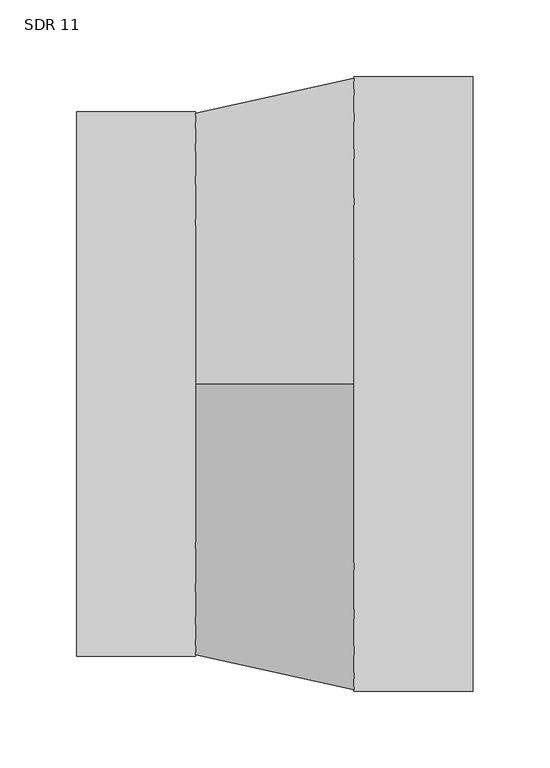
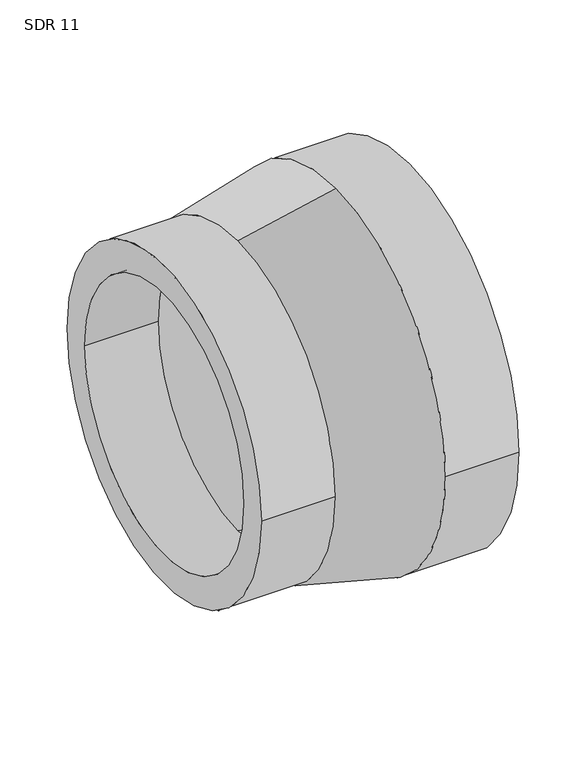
"""IFC4 building model written with IfcOpenShell, lengths in millimetres: pipe fitting geometry, Aquatherm - Reducing Coupling Combined - METRIC : SDR 11."""

from ifc_helpers import new_model, si_unit, frame, origin, place, context, project, spatial, polyline, circle_curve, source, transform, mapped, element, save
from ifc_brep_helpers import plane_surface, cylinder_surface, revolved_surface, advanced_brep


def sdr_11_62f720ff(model_context):
    return source(origin(), model_context, "Body", "AdvancedBrep", [
        advanced_brep(
        [(-129.54, -177.8, 0.0), (-129.54, 177.8, 0.0), (-129.54, -145.4727273, 0.0), (-129.54, 145.4727273, 0.0), (-51.816, 145.4727273, 0.0), (-51.816, 0.0, 145.4727273), (-51.816, -145.4727273, 0.0), (-51.816, 0.0, -145.4727273), (-51.816, 177.8, 0.0), (-51.816, 0.0, -177.8), (-51.816, -177.8, 0.0), (-51.816, 0.0, 177.8), (129.54, -200.66, 0.0), (129.54, 200.66, 0.0), (129.54, -164.1763636, 0.0), (129.54, 164.1763636, 0.0), (51.816, -200.66, 0.0), (51.816, 0.0, -200.66), (51.816, 200.66, 0.0), (51.816, 0.0, 200.66), (51.816, -164.1763636, 0.0), (51.816, 0.0, 164.1763636), (51.816, 164.1763636, 0.0), (51.816, 0.0, -164.1763636)],
        [
            (0, 1, circle_curve(frame((-129.54, 0.0, 0.0), z_axis=(-1.0, 0.0, 0.0), x_axis=(0.0, 1.0, 0.0)), 177.8)),
            (1, 0, circle_curve(frame((-129.54, 0.0, 0.0), z_axis=(-1.0, 0.0, 0.0), x_axis=(0.0, 1.0, 0.0)), 177.8)),
            (2, 3, circle_curve(frame((-129.54, 0.0, 0.0), z_axis=(1.0, 0.0, 0.0), x_axis=(0.0, 1.0, 0.0)), 145.4727273)),
            (3, 2, circle_curve(frame((-129.54, 0.0, 0.0), z_axis=(1.0, 0.0, 0.0), x_axis=(0.0, 1.0, 0.0)), 145.4727273)),
            (3, 4),
            (4, 5, circle_curve(frame((-51.816, 0.0, 0.0), z_axis=(1.0, 0.0, 0.0), x_axis=(0.0, 1.0, 0.0)), 145.4727273)),
            (5, 6, circle_curve(frame((-51.816, 0.0, 0.0), z_axis=(1.0, 0.0, 0.0), x_axis=(0.0, 1.0, 0.0)), 145.4727273)),
            (6, 2),
            (6, 7, circle_curve(frame((-51.816, 0.0, 0.0), z_axis=(1.0, 0.0, 0.0), x_axis=(0.0, 1.0, 0.0)), 145.4727273)),
            (7, 4, circle_curve(frame((-51.816, 0.0, 0.0), z_axis=(1.0, 0.0, 0.0), x_axis=(0.0, 1.0, 0.0)), 145.4727273)),
            (1, 8),
            (8, 9, circle_curve(frame((-51.816, 0.0, 0.0), z_axis=(-1.0, 0.0, 0.0), x_axis=(0.0, 1.0, 0.0)), 177.8)),
            (9, 10, circle_curve(frame((-51.816, 0.0, 0.0), z_axis=(-1.0, 0.0, 0.0), x_axis=(0.0, 1.0, 0.0)), 177.8)),
            (10, 0),
            (10, 11, circle_curve(frame((-51.816, 0.0, 0.0), z_axis=(-1.0, 0.0, 0.0), x_axis=(0.0, 1.0, 0.0)), 177.8)),
            (11, 8, circle_curve(frame((-51.816, 0.0, 0.0), z_axis=(-1.0, 0.0, 0.0), x_axis=(0.0, 1.0, 0.0)), 177.8)),
            (12, 13, circle_curve(frame((129.54, 0.0, 0.0), z_axis=(1.0, 0.0, 0.0), x_axis=(0.0, 1.0, 0.0)), 200.66)),
            (13, 12, circle_curve(frame((129.54, 0.0, 0.0), z_axis=(1.0, 0.0, 0.0), x_axis=(0.0, 1.0, 0.0)), 200.66)),
            (14, 15, circle_curve(frame((129.54, 0.0, 0.0), z_axis=(-1.0, 0.0, 0.0), x_axis=(0.0, 1.0, 0.0)), 164.1763636)),
            (15, 14, circle_curve(frame((129.54, 0.0, 0.0), z_axis=(-1.0, 0.0, 0.0), x_axis=(0.0, 1.0, 0.0)), 164.1763636)),
            (12, 16),
            (16, 17, circle_curve(frame((51.816, 0.0, 0.0), z_axis=(1.0, 0.0, 0.0), x_axis=(0.0, 1.0, 0.0)), 200.66)),
            (17, 18, circle_curve(frame((51.816, 0.0, 0.0), z_axis=(1.0, 0.0, 0.0), x_axis=(0.0, 1.0, 0.0)), 200.66)),
            (18, 13),
            (18, 19, circle_curve(frame((51.816, 0.0, 0.0), z_axis=(1.0, 0.0, 0.0), x_axis=(0.0, 1.0, 0.0)), 200.66)),
            (19, 16, circle_curve(frame((51.816, 0.0, 0.0), z_axis=(1.0, 0.0, 0.0), x_axis=(0.0, 1.0, 0.0)), 200.66)),
            (14, 20),
            (20, 21, circle_curve(frame((51.816, 0.0, 0.0), z_axis=(-1.0, 0.0, 0.0), x_axis=(0.0, 1.0, 0.0)), 164.1763636)),
            (21, 22, circle_curve(frame((51.816, 0.0, 0.0), z_axis=(-1.0, 0.0, 0.0), x_axis=(0.0, 1.0, 0.0)), 164.1763636)),
            (22, 15),
            (22, 23, circle_curve(frame((51.816, 0.0, 0.0), z_axis=(-1.0, 0.0, 0.0), x_axis=(0.0, 1.0, 0.0)), 164.1763636)),
            (23, 20, circle_curve(frame((51.816, 0.0, 0.0), z_axis=(-1.0, 0.0, 0.0), x_axis=(0.0, 1.0, 0.0)), 164.1763636)),
            (11, 19),
            (17, 9),
            (21, 5),
            (7, 23),
        ],
        [
            plane_surface(frame((-129.54, 145.4727273, 0.0), z_axis=(-1.0, 0.0, 0.0), x_axis=(0.0, 0.0, 1.0))),
            revolved_surface(polyline([(-129.54, 145.4727273, 0.0), (-51.816, 145.4727273, 0.0)]), (-129.54, 0.0, 0.0), (-1.0, 0.0, 0.0)),
            cylinder_surface(frame((0.0, 0.0, 0.0), z_axis=(1.0, 0.0, 0.0), x_axis=(0.0, 1.0, 0.0)), 177.8),
            plane_surface(frame((129.54, 200.66, 0.0), z_axis=(1.0, 0.0, 0.0), x_axis=(0.0, 0.0, 1.0))),
            cylinder_surface(frame((51.816, 0.0, 0.0), z_axis=(1.0, 0.0, 0.0), x_axis=(0.0, 1.0, 0.0)), 200.66),
            revolved_surface(polyline([(51.816, 164.1763636, 0.0), (129.54, 164.1763636, 0.0)]), (0.0, 0.0, 0.0), (-1.0, 0.0, 0.0)),
            revolved_surface(polyline([(51.816, 0.0, 200.66), (-51.816, 0.0, 177.8)]), (-704.7995384, 0.0, 0.0), (-1.0, 0.0, 0.0)),
            revolved_surface(polyline([(-51.816, 0.0, 145.4727273), (51.816, 0.0, 164.1763636)]), (-704.7995384, 0.0, 0.0), (-1.0, 0.0, 0.0)),
        ],
        [
            (0, [[1, 2], [3, 4]]),
            (1, [[-4, 5, 6, 7, 8]]),
            (1, [[-3, -8, 9, 10, -5]]),
            (2, [[-2, 11, 12, 13, 14]]),
            (2, [[-1, -14, 15, 16, -11]]),
            (3, [[17, 18], [19, 20]]),
            (4, [[-17, 21, 22, 23, 24]]),
            (4, [[-18, -24, 25, 26, -21]]),
            (5, [[-19, 27, 28, 29, 30]]),
            (5, [[-20, -30, 31, 32, -27]]),
            (6, [[33, -25, -23, 34, -12, -16]]),
            (6, [[-33, -15, -13, -34, -22, -26]]),
            (7, [[35, -6, -10, 36, -31, -29]]),
            (7, [[-35, -28, -32, -36, -9, -7]]),
        ],
    ),
    ])


if __name__ == "__main__":
    model = new_model("IFC4")
    model_context = context("Model", 3, world=origin())
    ifc_project = project(units=[si_unit("LENGTHUNIT", "METRE", prefix="MILLI")], contexts=[model_context])
    site = spatial("IfcSite", under=ifc_project)
    building = spatial("IfcBuilding", under=site)
    placement = place(None, origin())
    sdr_11_shape = sdr_11_62f720ff(model_context)
    element("IfcPipeFitting", 1, ObjectType="Aquatherm - Reducing Coupling Combined - METRIC : SDR 11", at=placement, inside=building, context=model_context, shape_type="MappedRepresentation", body=[
        mapped(sdr_11_shape, transform((0.0, 0.0, 0.0), x_axis=(1.0, 0.0, 0.0), y_axis=(0.0, 1.0, 0.0), z_axis=(0.0, 0.0, 1.0))),
    ])
    save(model, "model.ifc")
